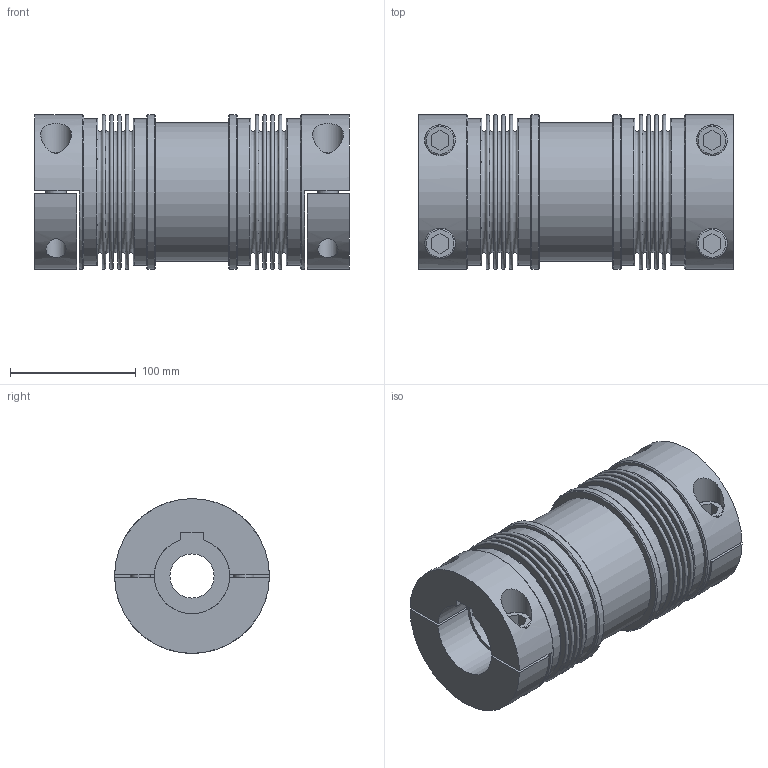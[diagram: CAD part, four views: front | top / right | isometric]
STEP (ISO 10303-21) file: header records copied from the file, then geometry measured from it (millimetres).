
FILE_DESCRIPTION(/* description */ ('STEP AP214'),/* implementation_level */ '2;1');
FILE_NAME(/* name */ 'C:\Diequa Files\ENGINEERING_Drawings\DWG-FILES\DQS''s\DQS-674_DB45 CR H2 BM(F70-50) with DQM-739\LBS.500.L.#.#.stp',/* time_stamp */ '2019-05-01T15:45:59-05:00',/* author */ ('DiequaCAD'),/* organization */ (''),/* preprocessor_version */ 'ST-DEVELOPER v18',/* originating_system */ 'Autodesk Inventor 2020',/* authorisation */ ' ');
FILE_SCHEMA (('AUTOMOTIVE_DESIGN { 1 0 10303 214 3 1 1 }'));
Length unit declared in the file: millimetre
Products named in the file (1): ZAE_500_60_PFN_60_PFN_31
Bounding box: 250 x 123 x 123 mm (x, y, z)
Volume: 1605661.4 mm3; surface area: 311169 mm2
Topology: 1 solids, 1 shells, 174 faces, 356 edges, 238 vertices
Faces by surface type: plane 98, cylinder 40, torus 26, cone 10
Full cylindrical faces by diameter (mm): 16 x8, 16.5 x4, 24 x4, 24.5 x4, 35 x2, 80 x2, 88 x1, 110 x1, 116.5 x4, 123 x4
Entity records: 5010 total; most frequent: CARTESIAN_POINT 1089, DIRECTION 870, ORIENTED_EDGE 712, EDGE_CURVE 356, AXIS2_PLACEMENT_3D 351, VERTEX_POINT 238, EDGE_LOOP 234, CIRCLE 176
